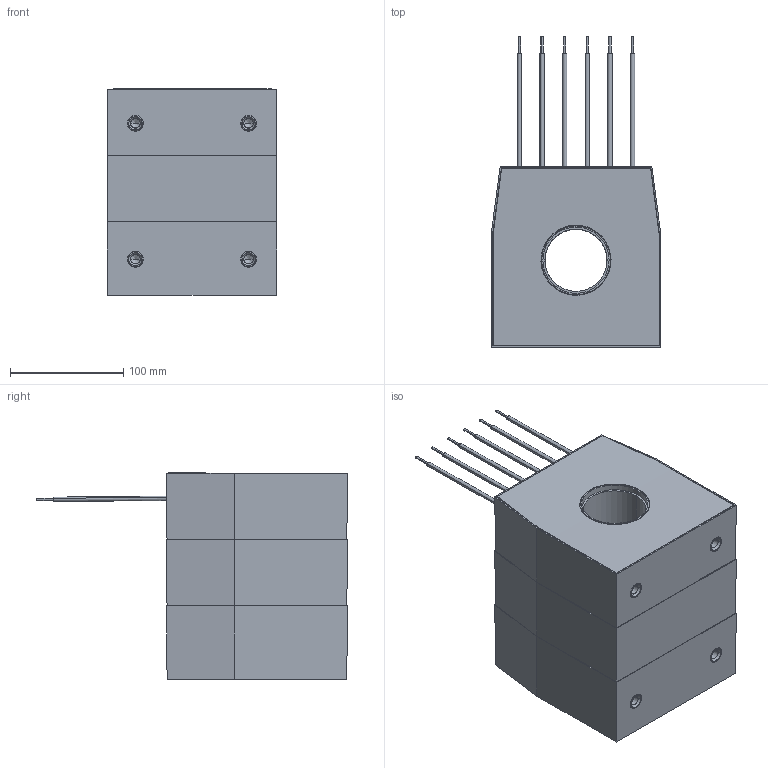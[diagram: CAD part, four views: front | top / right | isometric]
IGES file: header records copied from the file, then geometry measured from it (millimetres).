
Start section: IGES file generated from Kompas f.0 for Windows drawing by the IGES translator from Ascon Ltd., translator version IGESOUT-5.1.
Global section: file name: C:\Ðàáîòà\Èçâåùåíèÿ 5\ÒØÏ-ÍÒÇ-0.66-61...,71...,81... (ñáîðíûé)\Âåðñèÿ îò 21.05.24\3D ìîäåëü\ÒØÏ-ÍÒÇ-0,66-73Ñ\ÒØÏ-ÍÒÇ-0,66-73Ñ (55 ìì, 3-é ãàáàðèò).igs; native system: Kompas( 32 bit ) for Windows; preprocessor: 1.0; author: 123; organization: Microsoft; date: -17750727:093707; units: millimetre
Bounding box: 150 x 274.82 x 182.68 mm (x, y, z)
Volume: 740159.4 mm3; surface area: 461511.2 mm2
Topology: 18 solids, 18 shells, 351 faces, 807 edges, 513 vertices
Faces by surface type: revolution 186, bspline 165
